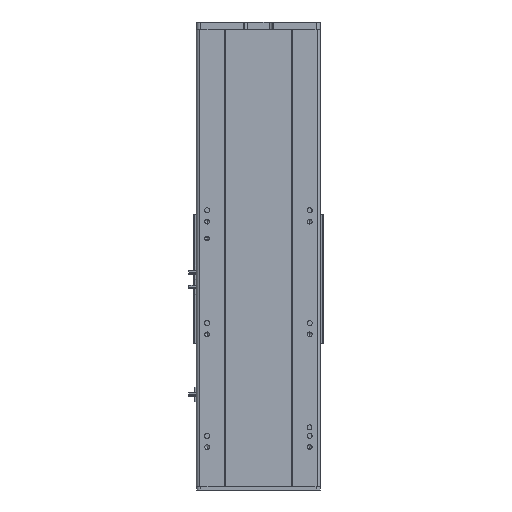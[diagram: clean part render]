
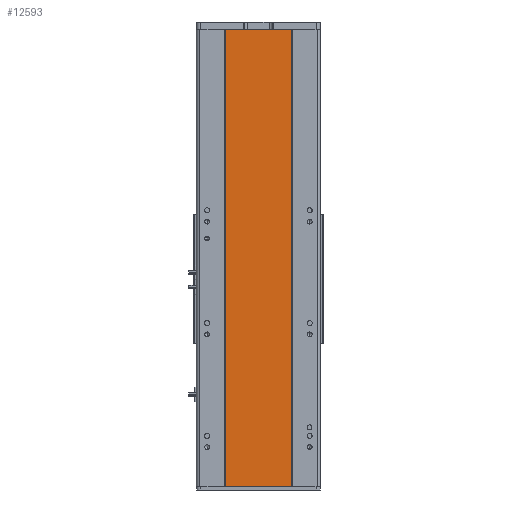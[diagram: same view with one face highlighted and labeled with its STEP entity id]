
A CAD part, front view. The second image highlights one B-rep face of the part: STEP entity #12593.
In plain terms, the highlighted planar face has unit normal (0, -1, 0).
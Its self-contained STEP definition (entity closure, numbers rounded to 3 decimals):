
#927 = PLANE ( 'NONE',  #18564 ) ;
#3256 = ORIENTED_EDGE ( 'NONE', *, *, #21565, .F. ) ;
#3591 = DIRECTION ( 'NONE',  ( 1., 0., 0. ) ) ;
#4073 = VECTOR ( 'NONE', #34913, 1000. ) ;
#4520 = VECTOR ( 'NONE', #5971, 1000. ) ;
#5971 = DIRECTION ( 'NONE',  ( 0., 0., -1. ) ) ;
#6119 = VERTEX_POINT ( 'NONE', #19924 ) ;
#6261 = VECTOR ( 'NONE', #23517, 1000. ) ;
#6306 = DIRECTION ( 'NONE',  ( -1., 0., 0. ) ) ;
#7580 = VECTOR ( 'NONE', #3591, 1000. ) ;
#9276 = EDGE_CURVE ( 'NONE', #6119, #18162, #11015, .T. ) ;
#9785 = LINE ( 'NONE', #29554, #6261 ) ;
#11015 = LINE ( 'NONE', #14521, #4520 ) ;
#11499 = ORIENTED_EDGE ( 'NONE', *, *, #9276, .T. ) ;
#12593 = ADVANCED_FACE ( 'NONE', ( #32023 ), #927, .F. ) ;
#14521 = CARTESIAN_POINT ( 'NONE',  ( -59., 1., 405.5 ) ) ;
#18162 = VERTEX_POINT ( 'NONE', #22100 ) ;
#18564 = AXIS2_PLACEMENT_3D ( 'NONE', #28375, #25511, #6306 ) ;
#19136 = EDGE_LOOP ( 'NONE', ( #31693, #29509, #3256, #11499 ) ) ;
#19924 = CARTESIAN_POINT ( 'NONE',  ( -59., 1., 405.5 ) ) ;
#20922 = CARTESIAN_POINT ( 'NONE',  ( 59., 1., 405.5 ) ) ;
#21362 = EDGE_CURVE ( 'NONE', #18162, #25148, #28271, .T. ) ;
#21565 = EDGE_CURVE ( 'NONE', #6119, #35485, #9785, .T. ) ;
#22100 = CARTESIAN_POINT ( 'NONE',  ( -59., 1., -405.5 ) ) ;
#23517 = DIRECTION ( 'NONE',  ( 1., 0., 0. ) ) ;
#25148 = VERTEX_POINT ( 'NONE', #30295 ) ;
#25511 = DIRECTION ( 'NONE',  ( 0., 1., 0. ) ) ;
#28271 = LINE ( 'NONE', #34375, #7580 ) ;
#28375 = CARTESIAN_POINT ( 'NONE',  ( -59., 1., 405.5 ) ) ;
#28615 = CARTESIAN_POINT ( 'NONE',  ( 59., 1., 405.5 ) ) ;
#29509 = ORIENTED_EDGE ( 'NONE', *, *, #35023, .F. ) ;
#29554 = CARTESIAN_POINT ( 'NONE',  ( -59., 1., 405.5 ) ) ;
#30295 = CARTESIAN_POINT ( 'NONE',  ( 59., 1., -405.5 ) ) ;
#31693 = ORIENTED_EDGE ( 'NONE', *, *, #21362, .T. ) ;
#32023 = FACE_OUTER_BOUND ( 'NONE', #19136, .T. ) ;
#34375 = CARTESIAN_POINT ( 'NONE',  ( -59., 1., -405.5 ) ) ;
#34913 = DIRECTION ( 'NONE',  ( 0., 0., -1. ) ) ;
#35023 = EDGE_CURVE ( 'NONE', #35485, #25148, #35161, .T. ) ;
#35161 = LINE ( 'NONE', #20922, #4073 ) ;
#35485 = VERTEX_POINT ( 'NONE', #28615 ) ;
